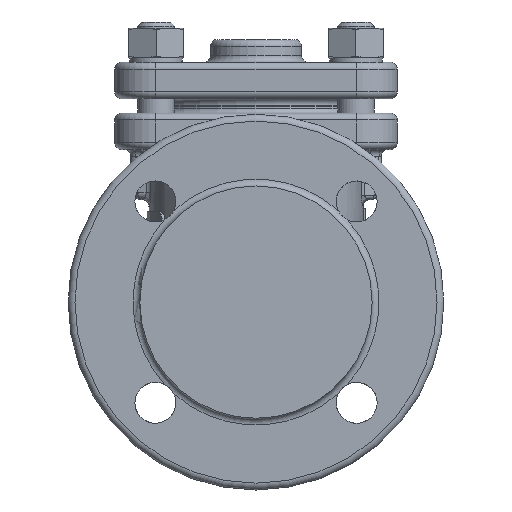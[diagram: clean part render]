
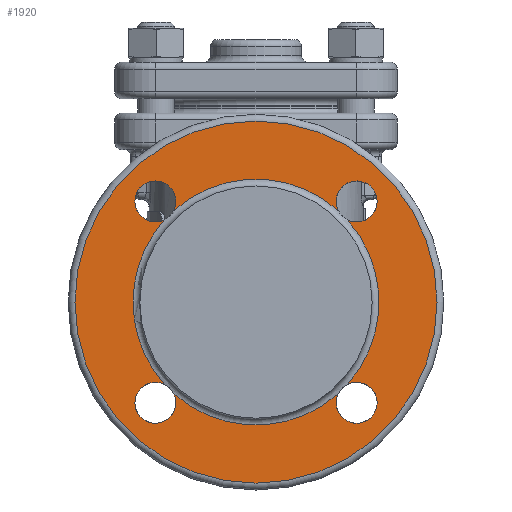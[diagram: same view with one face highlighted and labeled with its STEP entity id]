
A CAD part, front view. The second image highlights one B-rep face of the part: STEP entity #1920.
In plain terms, the highlighted planar face has unit normal (0, -1, 0).
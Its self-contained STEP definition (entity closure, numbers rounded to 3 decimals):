
#1920=ADVANCED_FACE('',(#2549,#2550),#2416,.F.);
#2416=PLANE('',#7944);
#2549=FACE_BOUND('',#2716,.T.);
#2550=FACE_BOUND('',#2717,.T.);
#2716=EDGE_LOOP('',(#3519));
#2717=EDGE_LOOP('',(#3520,#3521,#3522,#3523,#3524,#3525,#3526,#3527));
#3519=ORIENTED_EDGE('',*,*,#6475,.T.);
#3520=ORIENTED_EDGE('',*,*,#6476,.F.);
#3521=ORIENTED_EDGE('',*,*,#6477,.T.);
#3522=ORIENTED_EDGE('',*,*,#6478,.T.);
#3523=ORIENTED_EDGE('',*,*,#6479,.T.);
#3524=ORIENTED_EDGE('',*,*,#6480,.F.);
#3525=ORIENTED_EDGE('',*,*,#6481,.T.);
#3526=ORIENTED_EDGE('',*,*,#6482,.T.);
#3527=ORIENTED_EDGE('',*,*,#6483,.T.);
#5772=VERTEX_POINT('',#22840);
#5773=VERTEX_POINT('',#22842);
#5774=VERTEX_POINT('',#22843);
#5775=VERTEX_POINT('',#22845);
#5776=VERTEX_POINT('',#22847);
#5777=VERTEX_POINT('',#22849);
#5778=VERTEX_POINT('',#22851);
#5779=VERTEX_POINT('',#22853);
#5780=VERTEX_POINT('',#22855);
#6475=EDGE_CURVE('',#5772,#5772,#7449,.T.);
#6476=EDGE_CURVE('',#5773,#5774,#7450,.T.);
#6477=EDGE_CURVE('',#5773,#5775,#7451,.T.);
#6478=EDGE_CURVE('',#5775,#5776,#7452,.T.);
#6479=EDGE_CURVE('',#5776,#5777,#7453,.T.);
#6480=EDGE_CURVE('',#5778,#5777,#7454,.T.);
#6481=EDGE_CURVE('',#5778,#5779,#7455,.T.);
#6482=EDGE_CURVE('',#5779,#5780,#7456,.T.);
#6483=EDGE_CURVE('',#5780,#5774,#7457,.T.);
#7449=CIRCLE('',#7935,79.5);
#7450=CIRCLE('',#7936,9.);
#7451=CIRCLE('',#7937,54.);
#7452=CIRCLE('',#7938,9.);
#7453=CIRCLE('',#7939,54.);
#7454=CIRCLE('',#7940,9.);
#7455=CIRCLE('',#7941,54.);
#7456=CIRCLE('',#7942,9.);
#7457=CIRCLE('',#7943,54.);
#7935=AXIS2_PLACEMENT_3D('',#22839,#8954,#8955);
#7936=AXIS2_PLACEMENT_3D('',#22841,#8956,#8957);
#7937=AXIS2_PLACEMENT_3D('',#22844,#8958,#8959);
#7938=AXIS2_PLACEMENT_3D('',#22846,#8960,#8961);
#7939=AXIS2_PLACEMENT_3D('',#22848,#8962,#8963);
#7940=AXIS2_PLACEMENT_3D('',#22850,#8964,#8965);
#7941=AXIS2_PLACEMENT_3D('',#22852,#8966,#8967);
#7942=AXIS2_PLACEMENT_3D('',#22854,#8968,#8969);
#7943=AXIS2_PLACEMENT_3D('',#22856,#8970,#8971);
#7944=AXIS2_PLACEMENT_3D('',#22857,#8972,#8973);
#8954=DIRECTION('',(0.,-1.,0.));
#8955=DIRECTION('',(-1.,0.,0.));
#8956=DIRECTION('',(0.,-1.,0.));
#8957=DIRECTION('',(-1.,0.,0.));
#8958=DIRECTION('',(0.,1.,0.));
#8959=DIRECTION('',(-1.,0.,0.));
#8960=DIRECTION('',(0.,1.,0.));
#8961=DIRECTION('',(-1.,0.,0.));
#8962=DIRECTION('',(0.,1.,0.));
#8963=DIRECTION('',(-1.,0.,0.));
#8964=DIRECTION('',(0.,-1.,0.));
#8965=DIRECTION('',(-1.,0.,0.));
#8966=DIRECTION('',(0.,1.,0.));
#8967=DIRECTION('',(-1.,0.,0.));
#8968=DIRECTION('',(0.,1.,0.));
#8969=DIRECTION('',(-1.,0.,0.));
#8970=DIRECTION('',(0.,1.,0.));
#8971=DIRECTION('',(-1.,0.,0.));
#8972=DIRECTION('',(0.,1.,0.));
#8973=DIRECTION('',(-1.,0.,0.));
#22839=CARTESIAN_POINT('',(0.,-110.25,0.559));
#22840=CARTESIAN_POINT('',(-79.5,-110.25,0.559));
#22841=CARTESIAN_POINT('',(44.194,-110.25,-43.635));
#22842=CARTESIAN_POINT('',(36.191,-110.25,-39.518));
#22843=CARTESIAN_POINT('',(40.078,-110.25,-35.631));
#22844=CARTESIAN_POINT('',(0.,-110.25,0.559));
#22845=CARTESIAN_POINT('',(-36.191,-110.25,-39.518));
#22846=CARTESIAN_POINT('',(-44.194,-110.25,-43.635));
#22847=CARTESIAN_POINT('',(-40.078,-110.25,-35.631));
#22848=CARTESIAN_POINT('',(0.,-110.25,0.559));
#22849=CARTESIAN_POINT('',(-40.078,-110.25,36.75));
#22850=CARTESIAN_POINT('',(-44.194,-110.25,44.754));
#22851=CARTESIAN_POINT('',(-36.191,-110.25,40.637));
#22852=CARTESIAN_POINT('',(0.,-110.25,0.559));
#22853=CARTESIAN_POINT('',(36.191,-110.25,40.637));
#22854=CARTESIAN_POINT('',(44.194,-110.25,44.754));
#22855=CARTESIAN_POINT('',(40.078,-110.25,36.75));
#22856=CARTESIAN_POINT('',(0.,-110.25,0.559));
#22857=CARTESIAN_POINT('',(0.,-110.25,51.56));
